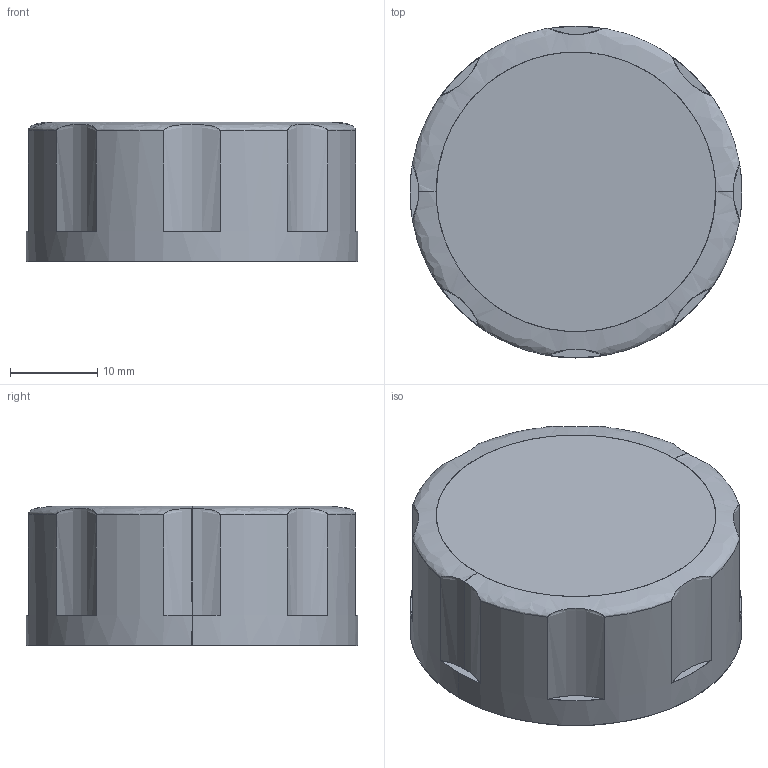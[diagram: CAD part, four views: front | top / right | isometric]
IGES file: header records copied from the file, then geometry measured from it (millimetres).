
Start section: SolidWorks IGES file using analytic representation for surfaces
Bounding box: 38 x 38 x 16 mm (x, y, z)
Surface area: 5480.9 mm2 (no closed solid volume)
Topology: 0 solids, 0 shells, 26 faces, 569 edges, 569 vertices
Faces by surface type: bspline 13, revolution 13
